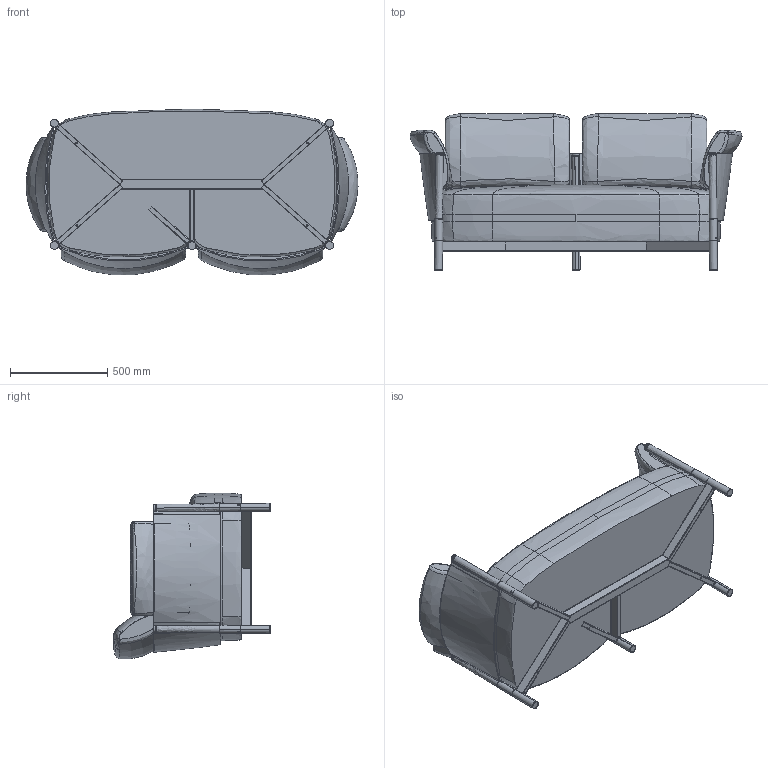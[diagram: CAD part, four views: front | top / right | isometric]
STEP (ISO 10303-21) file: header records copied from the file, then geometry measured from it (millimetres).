
FILE_DESCRIPTION (( 'STEP AP214' ), '1' );
FILE_NAME ('FG54202-00-00.STEP', '2024-12-19T08:17:47', ( '' ), ( '' ), 'SwSTEP 2.0', 'SolidWorks 2020', '' );
FILE_SCHEMA (( 'AUTOMOTIVE_DESIGN' ));
Length unit declared in the file: millimetre
Products named in the file (10): SD54202-01-00_IMBOTTITO; SCOCCA CUOIO^FG54202-00-00; CUSCINO BRACCIOLO; FG54202-00-00; CUSCINO SCHIENALE; FS54202-00-00; Parte1^FS54202-00-00; FS54202-01 GAMBA CENTRALE; SpecchiaturaCUSCINO SCHIENALE; FS54202-01-00
Assembly tree (10 placements, depth 3):
  FG54202-00-00
    SCOCCA CUOIO^FG54202-00-00
    SD54202-01-00_IMBOTTITO
    CUSCINO SCHIENALE
    CUSCINO BRACCIOLO  x2
    SpecchiaturaCUSCINO SCHIENALE
    FS54202-00-00
      FS54202-01-00
      FS54202-01 GAMBA CENTRALE
      Parte1^FS54202-00-00
Bounding box: 1710.77 x 808.47 x 854.08 mm (x, y, z)
Volume: 419847217 mm3; surface area: 11931095.3 mm2
Topology: 47 solids, 47 shells, 988 faces, 2566 edges, 1617 vertices
Faces by surface type: plane 373, cylinder 326, bspline 247, cone 30, torus 12
Entity records: 60372 total; most frequent: CARTESIAN_POINT 38677, ORIENTED_EDGE 4882, DIRECTION 3533, EDGE_CURVE 2441, VERTEX_POINT 1563, AXIS2_PLACEMENT_3D 1287, EDGE_LOOP 1104, LINE 959
